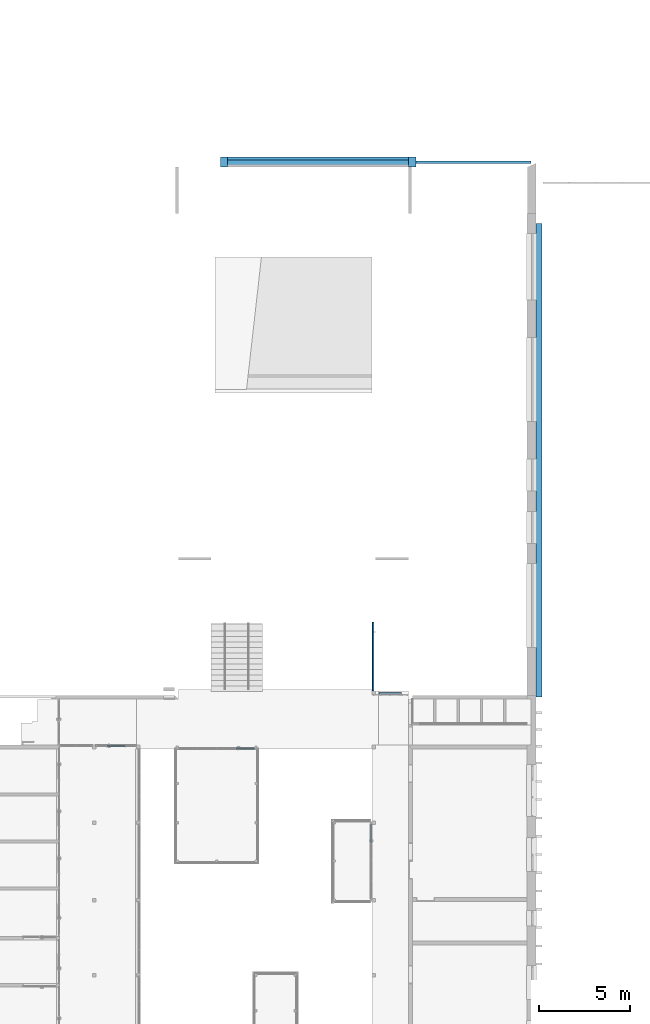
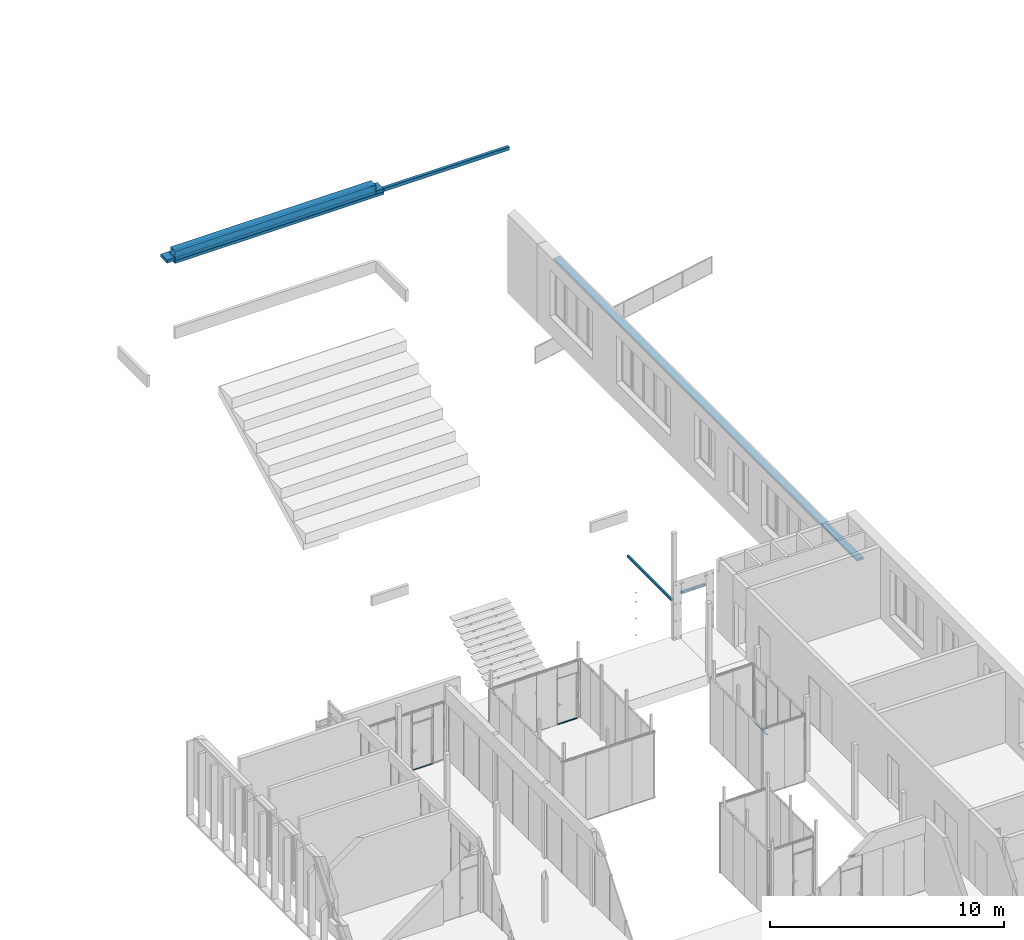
# One storey, part 9 of 387: 8 beams, 3 members, 3 elements without a shape of their own.
"""IFC2X3 building model written with IfcOpenShell, lengths in millimetres."""

from ifc_helpers import new_model, entity, si_unit, converted_unit, derived_unit, money_unit, direction, frame, frame_2d, origin_with_axes, place, context, subcontext, project, spatial, polyline, rectangle, outline, extrude, material, type_object, element, aggregate, save


model = new_model("IFC2X3")

# Units and contexts
model_context = context("Model", 3, precision=0.01, world=origin_with_axes(), true_north=direction((0.0, 1.0)))
body_context = subcontext(model_context, "Body", "Model", "MODEL_VIEW")
ifc_project = project(units=[si_unit("LENGTHUNIT", "METRE", prefix="MILLI"), si_unit("AREAUNIT", "SQUARE_METRE"), si_unit("VOLUMEUNIT", "CUBIC_METRE"), converted_unit("PLANEANGLEUNIT", "DEGREE", entity("IfcPlaneAngleMeasure", 0.0174532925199), si_unit("PLANEANGLEUNIT", "RADIAN"), dimensions=[0, 0, 0, 0, 0, 0, 0]), si_unit("SOLIDANGLEUNIT", "STERADIAN"), money_unit("EUR"), converted_unit("TIMEUNIT", "Year", entity("IfcTimeMeasure", 31556926.0), si_unit("TIMEUNIT", "SECOND"), dimensions=[0, 0, 1, 0, 0, 0, 0]), si_unit("MASSUNIT", "GRAM", prefix="KILO"), si_unit("THERMODYNAMICTEMPERATUREUNIT", "DEGREE_CELSIUS"), si_unit("LUMINOUSINTENSITYUNIT", "LUMEN"), si_unit("ENERGYUNIT", "JOULE", prefix="MEGA"), derived_unit("THERMALCONDUCTANCEUNIT", [(si_unit("POWERUNIT", "WATT"), 1), (si_unit("LENGTHUNIT", "METRE"), -1), (si_unit("THERMODYNAMICTEMPERATUREUNIT", "KELVIN"), -1)]), derived_unit("SPECIFICHEATCAPACITYUNIT", [(si_unit("ENERGYUNIT", "JOULE"), 1), (si_unit("MASSUNIT", "GRAM", prefix="KILO"), -1), (si_unit("THERMODYNAMICTEMPERATUREUNIT", "KELVIN"), -1)]), derived_unit("MASSDENSITYUNIT", [(si_unit("MASSUNIT", "GRAM", prefix="KILO"), 1), (si_unit("VOLUMEUNIT", "CUBIC_METRE"), -1)])], contexts=[model_context])

# Site, building, storey
site_placement = place(None, origin_with_axes())
site = spatial("IfcSite", under=ifc_project, at=site_placement, Name="Puškini 31, Narva", CompositionType="ELEMENT")
building_placement = place(site_placement, origin_with_axes())
building = spatial("IfcBuilding", under=site, at=building_placement, Name="Narva Riigigümnaasium", CompositionType="ELEMENT")
storey_placement = place(building_placement, frame((0.0, 0.0, 2640.0), z_axis=(0.0, 0.0, 1.0), x_axis=(1.0, 0.0, 0.0)))
storey = spatial("IfcBuildingStorey", under=building, at=storey_placement, Name="2.korrus +2.64", CompositionType="ELEMENT", Elevation=2640.0)

# Beams
ifc_material_1 = material(Name="ET-06_Teras - Konstruktsioon")
beam_type_1 = type_object("IfcBeamType", Name="ET-06_Teras - Konstruktsioon 100 x 100", PredefinedType="BEAM")
beam_1_placement = place(storey_placement, frame((45499.9999993, 195150.0, 2030.0), z_axis=(0.0, 0.0, 1.0), x_axis=(1.0, -1.8474252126e-10, 0.0)))
element("IfcBeam", 1, at=beam_1_placement, inside=storey, type_object=beam_type_1, material=ifc_material_1, Name="TALA", ObjectType="BEAM", context=body_context, shape_type="SweptSolid", body=[
    extrude(rectangle(XDim=100.0, YDim=100.0, at=frame_2d((-50.0, 50.0), x_axis=(1.0, 0.0))), frame((0.0, 0.0, 0.0), z_axis=(0.0, 1.0, 0.0), x_axis=(0.0, 0.0, 1.0)), (0.0, 0.0, 1.0), 3756.97132642),
])
beam_2_placement = place(storey_placement, frame((47099.9999993, 194950.0, 2380.0), z_axis=(0.0, 0.0, 1.0), x_axis=(0.0, 1.0, 0.0)))
element("IfcBeam", 2, at=beam_2_placement, inside=storey, type_object=beam_type_1, material=ifc_material_1, Name="TALA", ObjectType="BEAM", context=body_context, shape_type="SweptSolid", body=[
    extrude(rectangle(XDim=100.0, YDim=100.0, at=frame_2d((-50.0, 50.0), x_axis=(1.0, 0.0))), frame((0.0, 0.0, 0.0), z_axis=(0.0, 1.0, 0.0), x_axis=(0.0, 0.0, 1.0)), (0.0, 0.0, 1.0), 1200.0),
])
ifc_material_2 = material(Name="Puitroov")
beam_type_2 = type_object("IfcBeamType", Name="Puitroov 320 x 100", PredefinedType="BEAM")
beam_3_placement = place(storey_placement, frame((54643.000001, 220722.216801, 1150.0), z_axis=(0.0, 0.0, 1.0), x_axis=(-1.0, 0.0, 0.0)))
element("IfcBeam", 3, at=beam_3_placement, inside=storey, type_object=beam_type_2, material=ifc_material_2, Name="TALA", ObjectType="BEAM", context=body_context, shape_type="SweptSolid", body=[
    extrude(rectangle(XDim=100.0, YDim=320.0, at=frame_2d((-50.0, 0.0), x_axis=(1.0, 0.0))), frame((0.0, 0.0, 0.0), z_axis=(0.0, 1.0, 0.0), x_axis=(0.0, 0.0, 1.0)), (0.0, 0.0, 1.0), 25907.2168018),
])
ifc_material_3 = material(Name="Betoon element")
beam_type_3 = type_object("IfcBeamType", Name="Betoon element 550 x 155", PredefinedType="BEAM")
beam_4_placement = place(storey_placement, frame((37600.0, 224350.0, 5060.00000008), z_axis=(0.0, 0.0, 1.0), x_axis=(0.0, -1.0, 0.0)))
element("IfcBeam", 4, at=beam_4_placement, inside=storey, type_object=beam_type_3, material=ifc_material_3, Name="R/B tala", ObjectType="BEAM", context=body_context, shape_type="SweptSolid", body=[
    extrude(rectangle(XDim=155.000000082, YDim=550.0, at=frame_2d((-77.5000000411, 275.0), x_axis=(1.0, 0.0))), frame((0.0, 0.0, 0.0), z_axis=(0.0, 1.0, 0.0), x_axis=(0.0, 0.0, 1.0)), (0.0, 0.0, 1.0), 10300.0000599),
])
ifc_material_4 = material(Name="KON-04_Betoon - Konstuktsioon")
beam_type_4 = type_object("IfcBeamType", Name="KON-04_Betoon - Konstuktsioon 550 x 155", PredefinedType="BEAM")
beam_5_placement = place(storey_placement, frame((37200.0, 224350.0, 5215.00000016), z_axis=(0.0, 0.0, 1.0), x_axis=(0.0, -1.0, 0.0)))
element("IfcBeam", 5, at=beam_5_placement, inside=storey, type_object=beam_type_4, material=ifc_material_4, Name="R/B tala", ObjectType="BEAM", context=body_context, shape_type="SweptSolid", body=[
    extrude(rectangle(XDim=155.000000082, YDim=550.0, at=frame_2d((-77.5000000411, 275.0), x_axis=(1.0, 0.0))), frame((0.0, 0.0, 0.0), z_axis=(0.0, 1.0, 0.0), x_axis=(0.0, 0.0, 1.0)), (0.0, 0.0, 1.0), 10700.0),
])
beam_6_placement = place(storey_placement, frame((37600.0, 224350.0, 5215.00000016), z_axis=(0.0, 0.0, 1.0), x_axis=(0.0, -1.0, 0.0)))
element("IfcBeam", 6, at=beam_6_placement, inside=storey, type_object=beam_type_4, material=ifc_material_4, Name="R/B tala", ObjectType="BEAM", context=body_context, shape_type="SweptSolid", body=[
    extrude(rectangle(XDim=155.000000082, YDim=550.0, at=frame_2d((-77.5000000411, 275.0), x_axis=(1.0, 0.0))), frame((0.0, 0.0, 0.0), z_axis=(0.0, 1.0, 0.0), x_axis=(0.0, 0.0, 1.0)), (0.0, 0.0, 1.0), 9900.0),
])
beam_type_5 = type_object("IfcBeamType", Name="Betoon element 400 x 480", PredefinedType="BEAM")
beam_7_placement = place(storey_placement, frame((37600.0, 224200.0, 5540.00000008), z_axis=(0.0, 0.0, 1.0), x_axis=(0.0, -1.0, 0.0)))
element("IfcBeam", 7, at=beam_7_placement, inside=storey, type_object=beam_type_5, material=ifc_material_3, Name="R/B tala", ObjectType="BEAM", context=body_context, shape_type="SweptSolid", body=[
    extrude(rectangle(XDim=480.0, YDim=400.0, at=frame_2d((-240.0, 200.0), x_axis=(1.0, 0.0))), frame((0.0, 0.0, 0.0), z_axis=(0.0, 1.0, 0.0), x_axis=(0.0, 0.0, 1.0)), (0.0, 0.0, 1.0), 9900.0),
])
beam_type_6 = type_object("IfcBeamType", Name="Betoon element 150 x 170", PredefinedType="BEAM")
beam_8_placement = place(storey_placement, frame((47899.9999796, 223999.999995, 5060.00019326), z_axis=(0.0, 0.0, 1.0), x_axis=(0.0, -1.0, 0.0)))
element("IfcBeam", 8, at=beam_8_placement, inside=storey, type_object=beam_type_6, material=ifc_material_3, Name="R/B tala", ObjectType="BEAM", context=body_context, shape_type="SweptSolid", body=[
    extrude(rectangle(XDim=170.000193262, YDim=150.000004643, at=frame_2d((-85.000096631, -75.0000023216), x_axis=(1.0, 0.0))), frame((0.0, 0.0, 0.0), z_axis=(0.0, 1.0, 0.0), x_axis=(0.0, 0.0, 1.0)), (0.0, 0.0, 1.0), 6300.00002216),
])

# Curtain wall, member
curtain_wall_type = type_object("IfcCurtainWallType", Name="Curtain Wall Type", PredefinedType="NOTDEFINED")
curtain_wall_1_placement = place(storey_placement, frame((34847.7583075, 191988.027881, -8.865332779e-05), z_axis=(0.0, 0.0, 1.0), x_axis=(1.0, 0.0, 0.0)))
curtain_wall_1 = element("IfcCurtainWall", 9, at=curtain_wall_1_placement, inside=storey, type_object=curtain_wall_type, Name="G-SKLF-30")
ifc_material_5 = material(Name="ET-04_Alumiinium")
member_type = type_object("IfcMemberType", Name="20 x 74", PredefinedType="MULLION")
member_1_placement = place(curtain_wall_1_placement, frame((3217.23850887, 0.00265870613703, 0.0), z_axis=(1.0, 8.26393858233e-07, 0.0), x_axis=(0.0, 0.0, 1.0)))
member_1 = element("IfcMember", 10, at=member_1_placement, type_object=member_type, material=ifc_material_5, Name="G-SKLF-70-raam", ObjectType="MULLION", context=body_context, shape_type="SweptSolid", body=[
    extrude(outline(polyline([(37.0, -20.0), (37.0, 0.0), (-37.0, 0.0), (-37.0, -20.0), (37.0, -20.0)])), frame((0.0, 0.0, 0.0), z_axis=(0.0, 0.0, 1.0), x_axis=(0.0, 1.0, 0.0)), (0.0, 0.0, 1.0), 1000.0),
])
aggregate(curtain_wall_1, [member_1])

curtain_wall_2_placement = place(storey_placement, frame((45457.4999983, 183722.500006, 0.0), z_axis=(0.0, 0.0, 1.0), x_axis=(1.0, 0.0, 0.0)))
curtain_wall_2 = element("IfcCurtainWall", 11, at=curtain_wall_2_placement, inside=storey, type_object=curtain_wall_type, Name="G-SKLF-34")
member_2_placement = place(curtain_wall_2_placement, frame((0.0, 3112.5, 0.0), z_axis=(0.0, 1.0, 0.0), x_axis=(0.0, 0.0, 1.0)))
member_2 = element("IfcMember", 12, at=member_2_placement, type_object=member_type, material=ifc_material_5, Name="G-SKLF-87-raam", ObjectType="MULLION", context=body_context, shape_type="SweptSolid", body=[
    extrude(outline(polyline([(-37.0, -20.0), (37.0, -20.0), (37.0, 0.0), (-37.0, 0.0), (-37.0, -20.0)])), frame((0.0, 0.0, 0.0), z_axis=(0.0, 0.0, 1.0), x_axis=(0.0, 1.0, 0.0)), (0.0, 0.0, 1.0), 1000.0),
])
aggregate(curtain_wall_2, [member_2])

curtain_wall_3_placement = place(storey_placement, frame((32261.4285728, 192143.0, -1.99739158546e-06), z_axis=(0.0, 0.0, 1.0), x_axis=(1.0, 0.0, 0.0)))
curtain_wall_3 = element("IfcCurtainWall", 13, at=curtain_wall_3_placement, inside=storey, type_object=curtain_wall_type, Name="G-SKLF-24")
member_3_placement = place(curtain_wall_3_placement, frame((-261.428571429, 0.0, 0.0), z_axis=(-1.0, 0.0, 0.0), x_axis=(0.0, 0.0, 1.0)))
member_3 = element("IfcMember", 14, at=member_3_placement, type_object=member_type, material=ifc_material_5, Name="G-SKLF-46-raam", ObjectType="MULLION", context=body_context, shape_type="SweptSolid", body=[
    extrude(outline(polyline([(37.0, -20.0), (37.0, 0.0), (-37.0, 0.0), (-37.0, -20.0), (37.0, -20.0)])), frame((0.0, 0.0, 0.0), z_axis=(0.0, 0.0, 1.0), x_axis=(0.0, 1.0, 0.0)), (0.0, 0.0, 1.0), 1000.0),
])
aggregate(curtain_wall_3, [member_3])

save(model, "model.ifc")
